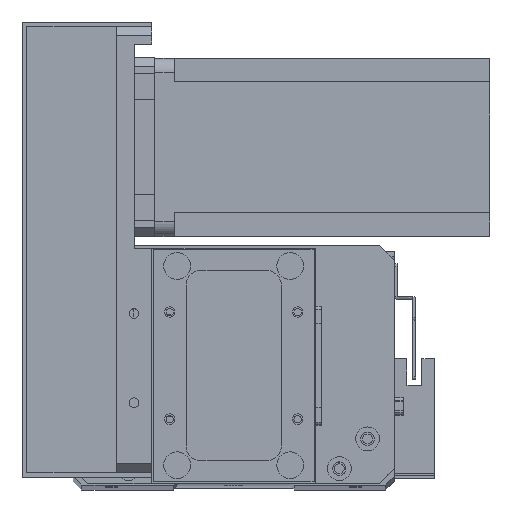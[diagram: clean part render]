
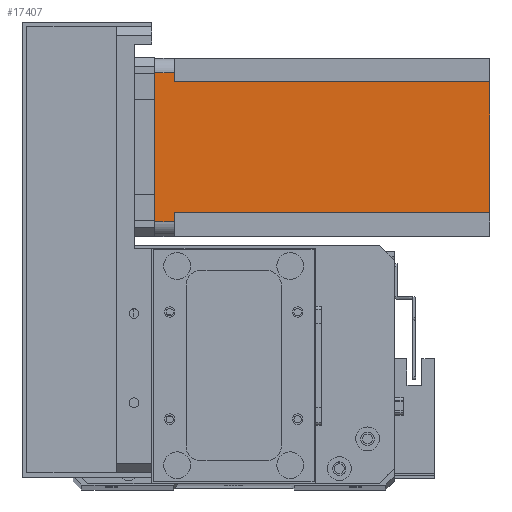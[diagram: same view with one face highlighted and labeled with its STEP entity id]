
A CAD part, top view. The second image highlights one B-rep face of the part: STEP entity #17407.
In plain terms, the highlighted planar face has unit normal (0, 0, 1) as drawn and (0, -1, 0) by its records, which use the part's own axes.
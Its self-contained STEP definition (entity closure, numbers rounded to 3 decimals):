
#208 = VECTOR ( 'NONE', #2277, 1000. ) ;
#217 = DIRECTION ( 'NONE',  ( 0., 0., 1. ) ) ;
#570 = LINE ( 'NONE', #14055, #24516 ) ;
#1043 = DIRECTION ( 'NONE',  ( 0., 0., -1. ) ) ;
#1214 = ORIENTED_EDGE ( 'NONE', *, *, #21071, .T. ) ;
#1662 = CARTESIAN_POINT ( 'NONE',  ( 52., 0., -6.5 ) ) ;
#1664 = EDGE_LOOP ( 'NONE', ( #23331, #1214, #28794, #15928, #12645, #14759, #9667, #15890 ) ) ;
#2277 = DIRECTION ( 'NONE',  ( 1., 0., 0. ) ) ;
#2384 = DIRECTION ( 'NONE',  ( -1., 0., 0. ) ) ;
#2435 = DIRECTION ( 'NONE',  ( 0., 0., -1. ) ) ;
#2610 = VECTOR ( 'NONE', #19872, 1000. ) ;
#2833 = VERTEX_POINT ( 'NONE', #10323 ) ;
#3329 = VERTEX_POINT ( 'NONE', #10153 ) ;
#3879 = VERTEX_POINT ( 'NONE', #18226 ) ;
#4249 = EDGE_CURVE ( 'NONE', #2833, #10965, #4980, .T. ) ;
#4636 = DIRECTION ( 'NONE',  ( 1., 0., 0. ) ) ;
#4980 = LINE ( 'NONE', #9418, #16527 ) ;
#5650 = VECTOR ( 'NONE', #4636, 1000. ) ;
#6240 = EDGE_CURVE ( 'NONE', #11153, #26408, #27184, .T. ) ;
#6401 = LINE ( 'NONE', #11517, #5650 ) ;
#6658 = AXIS2_PLACEMENT_3D ( 'NONE', #11729, #16357, #2435 ) ;
#6672 = CARTESIAN_POINT ( 'NONE',  ( 5., 0., 0. ) ) ;
#6971 = VECTOR ( 'NONE', #1043, 1000. ) ;
#7267 = VECTOR ( 'NONE', #217, 1000. ) ;
#9418 = CARTESIAN_POINT ( 'NONE',  ( 8., 0., -112.5 ) ) ;
#9667 = ORIENTED_EDGE ( 'NONE', *, *, #13560, .T. ) ;
#10153 = CARTESIAN_POINT ( 'NONE',  ( 5., 0., -6.5 ) ) ;
#10323 = CARTESIAN_POINT ( 'NONE',  ( 8., 0., -112.5 ) ) ;
#10965 = VERTEX_POINT ( 'NONE', #26539 ) ;
#11153 = VERTEX_POINT ( 'NONE', #1662 ) ;
#11517 = CARTESIAN_POINT ( 'NONE',  ( 52., 0., -6.5 ) ) ;
#11676 = CARTESIAN_POINT ( 'NONE',  ( 0., 0., -112.5 ) ) ;
#11729 = CARTESIAN_POINT ( 'NONE',  ( 0., 0., -112.5 ) ) ;
#12076 = VECTOR ( 'NONE', #2384, 1000. ) ;
#12645 = ORIENTED_EDGE ( 'NONE', *, *, #23771, .F. ) ;
#12665 = LINE ( 'NONE', #11676, #208 ) ;
#12799 = LINE ( 'NONE', #20912, #12076 ) ;
#13560 = EDGE_CURVE ( 'NONE', #2833, #26408, #12665, .T. ) ;
#14055 = CARTESIAN_POINT ( 'NONE',  ( 0., 0., 0. ) ) ;
#14146 = DIRECTION ( 'NONE',  ( 1., 0., 0. ) ) ;
#14204 = VERTEX_POINT ( 'NONE', #24891 ) ;
#14759 = ORIENTED_EDGE ( 'NONE', *, *, #4249, .F. ) ;
#15303 = DIRECTION ( 'NONE',  ( 0., 0., 1. ) ) ;
#15890 = ORIENTED_EDGE ( 'NONE', *, *, #6240, .F. ) ;
#15928 = ORIENTED_EDGE ( 'NONE', *, *, #28923, .T. ) ;
#16357 = DIRECTION ( 'NONE',  ( 0., -1., 0. ) ) ;
#16527 = VECTOR ( 'NONE', #15303, 1000. ) ;
#17407 = ADVANCED_FACE ( 'NONE', ( #23937 ), #20766, .T. ) ;
#18226 = CARTESIAN_POINT ( 'NONE',  ( 55., 0., 0. ) ) ;
#19767 = CARTESIAN_POINT ( 'NONE',  ( 52., 0., -112.5 ) ) ;
#19872 = DIRECTION ( 'NONE',  ( 0., 0., -1. ) ) ;
#20766 = PLANE ( 'NONE',  #6658 ) ;
#20912 = CARTESIAN_POINT ( 'NONE',  ( 8., 0., -6.5 ) ) ;
#21071 = EDGE_CURVE ( 'NONE', #14204, #3879, #25546, .T. ) ;
#21576 = CARTESIAN_POINT ( 'NONE',  ( 52., 0., -112.5 ) ) ;
#23206 = EDGE_CURVE ( 'NONE', #11153, #14204, #6401, .T. ) ;
#23331 = ORIENTED_EDGE ( 'NONE', *, *, #23206, .T. ) ;
#23771 = EDGE_CURVE ( 'NONE', #10965, #3329, #12799, .T. ) ;
#23937 = FACE_OUTER_BOUND ( 'NONE', #1664, .T. ) ;
#24167 = VERTEX_POINT ( 'NONE', #6672 ) ;
#24516 = VECTOR ( 'NONE', #14146, 1000. ) ;
#24547 = LINE ( 'NONE', #28706, #6971 ) ;
#24891 = CARTESIAN_POINT ( 'NONE',  ( 55., 0., -6.5 ) ) ;
#25546 = LINE ( 'NONE', #27897, #7267 ) ;
#26408 = VERTEX_POINT ( 'NONE', #21576 ) ;
#26539 = CARTESIAN_POINT ( 'NONE',  ( 8., 0., -6.5 ) ) ;
#27184 = LINE ( 'NONE', #19767, #2610 ) ;
#27897 = CARTESIAN_POINT ( 'NONE',  ( 55., 0., -112.5 ) ) ;
#28706 = CARTESIAN_POINT ( 'NONE',  ( 5., 0., -112.5 ) ) ;
#28794 = ORIENTED_EDGE ( 'NONE', *, *, #29325, .F. ) ;
#28923 = EDGE_CURVE ( 'NONE', #24167, #3329, #24547, .T. ) ;
#29325 = EDGE_CURVE ( 'NONE', #24167, #3879, #570, .T. ) ;
